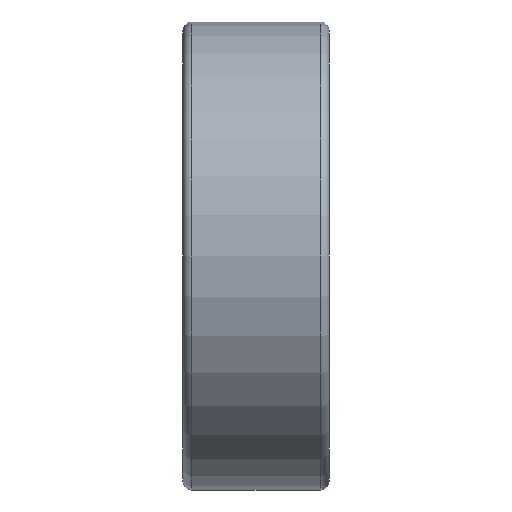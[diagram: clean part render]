
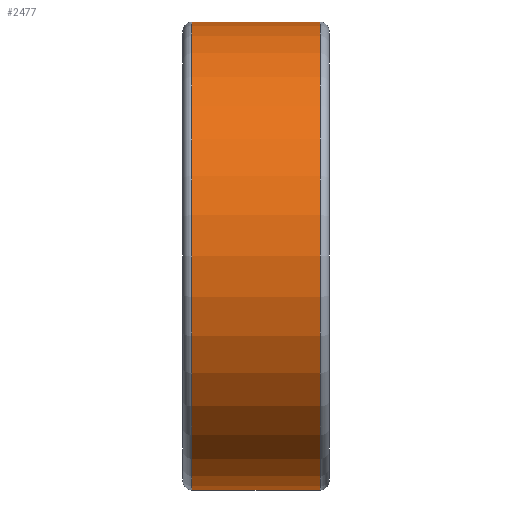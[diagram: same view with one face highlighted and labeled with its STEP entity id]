
A CAD part, front view. The second image highlights one B-rep face of the part: STEP entity #2477.
In plain terms, the highlighted cylindrical face has radius 8 mm (diameter 16 mm), a partial arc.
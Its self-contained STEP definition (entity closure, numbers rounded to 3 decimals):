
#789=CARTESIAN_POINT('',(2.2,0.,0.));
#790=DIRECTION('',(-1.,0.,0.));
#791=DIRECTION('',(0.,0.,-1.));
#792=AXIS2_PLACEMENT_3D('',#789,#790,#791);
#1378=DIRECTION('',(-1.,0.,0.));
#1379=VECTOR('',#1378,4.4);
#1380=CARTESIAN_POINT('',(2.2,0.,8.));
#1381=LINE('',#1380,#1379);
#1382=DIRECTION('',(-1.,0.,0.));
#1383=VECTOR('',#1382,4.4);
#1384=CARTESIAN_POINT('',(2.2,0.,-8.));
#1385=LINE('',#1384,#1383);
#1391=CARTESIAN_POINT('',(-2.2,0.,0.));
#1392=DIRECTION('',(1.,0.,0.));
#1393=DIRECTION('',(0.,0.,1.));
#1394=AXIS2_PLACEMENT_3D('',#1391,#1392,#1393);
#1542=CARTESIAN_POINT('',(2.2,0.,8.));
#1543=VERTEX_POINT('',#1542);
#1544=CARTESIAN_POINT('',(2.2,0.,-8.));
#1545=VERTEX_POINT('',#1544);
#1550=CARTESIAN_POINT('',(-2.2,0.,-8.));
#1551=VERTEX_POINT('',#1550);
#1552=CARTESIAN_POINT('',(-2.2,0.,8.));
#1553=VERTEX_POINT('',#1552);
#2465=CARTESIAN_POINT('',(0.,0.,0.));
#2466=DIRECTION('',(-1.,0.,0.));
#2467=DIRECTION('',(0.,0.,1.));
#2468=AXIS2_PLACEMENT_3D('',#2465,#2466,#2467);
#2469=CYLINDRICAL_SURFACE('',#2468,8.);
#2470=ORIENTED_EDGE('',*,*,#2460,.T.);
#2472=ORIENTED_EDGE('',*,*,#2471,.F.);
#2473=ORIENTED_EDGE('',*,*,#2457,.F.);
#2474=ORIENTED_EDGE('',*,*,#1601,.F.);
#2475=EDGE_LOOP('',(#2470,#2472,#2473,#2474));
#2476=FACE_OUTER_BOUND('',#2475,.F.);
#2477=ADVANCED_FACE('',(#2476),#2469,.T.);
#793=CIRCLE('',#792,8.);
#1395=CIRCLE('',#1394,8.);
#1601=EDGE_CURVE('',#1545,#1543,#793,.T.);
#2457=EDGE_CURVE('',#1543,#1553,#1381,.T.);
#2460=EDGE_CURVE('',#1545,#1551,#1385,.T.);
#2471=EDGE_CURVE('',#1553,#1551,#1395,.T.);
